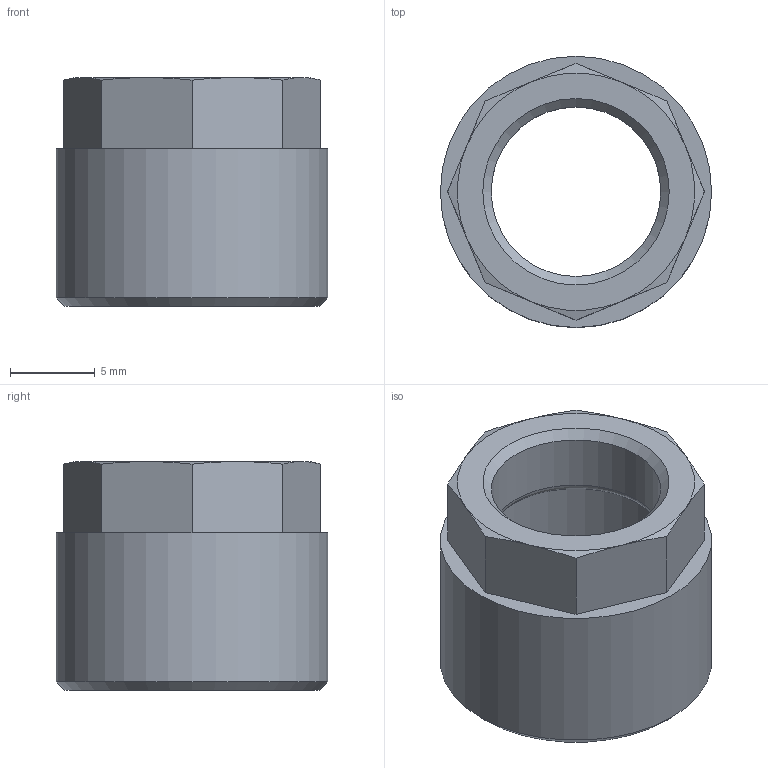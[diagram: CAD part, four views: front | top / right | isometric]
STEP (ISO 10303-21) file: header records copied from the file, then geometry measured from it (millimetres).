
FILE_DESCRIPTION(/* description */ (''),/* implementation_level */ '2;1');
FILE_NAME(/* name */ '17007_310_10_M14X1_21.09.16',/* time_stamp */ '2016-09-21T08:25:52+02:00',/* author */ (''),/* organization */ (''),/* preprocessor_version */ 'ST-DEVELOPER v16.5',/* originating_system */ 'HiCAD 2016 2101.0 Build 254',/* authorisation */ '');
FILE_SCHEMA (('AUTOMOTIVE_DESIGN { 1 0 10303 214 1 1 1 1 }'));
Length unit declared in the file: millimetre
Products named in the file (2): Root; 17007
Assembly tree (1 placements, depth 2):
  Root
    17007
Bounding box: 16 x 16 x 13.5 mm (x, y, z)
Volume: 1030.1 mm3; surface area: 1347 mm2
Topology: 1 solids, 1 shells, 27 faces, 62 edges, 39 vertices
Faces by surface type: cone 12, plane 11, cylinder 3, torus 1
Full cylindrical faces by diameter (mm): 10 x1, 12.773 x1, 16 x1
Entity records: 1236 total; most frequent: DIRECTION 142, CARTESIAN_POINT 114, PRESENTATION_STYLE_ASSIGNMENT 101, COLOUR_RGB 101, DRAUGHTING_PRE_DEFINED_CURVE_FONT 100, CURVE_STYLE 100, OVER_RIDING_STYLED_ITEM 100, ORIENTED_EDGE 100
